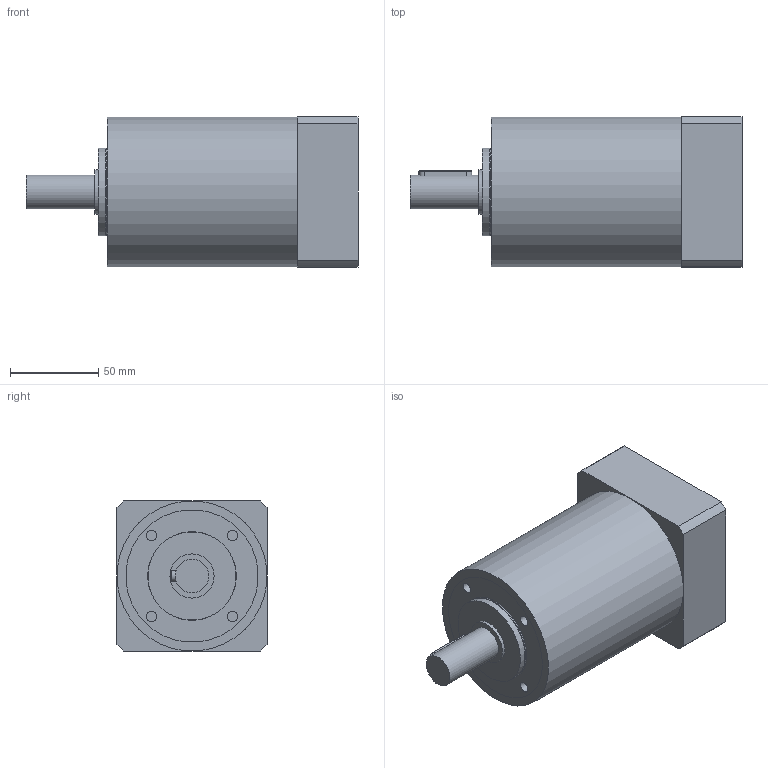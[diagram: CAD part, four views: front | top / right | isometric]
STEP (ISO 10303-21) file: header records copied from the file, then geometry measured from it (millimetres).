
FILE_DESCRIPTION(/* description */ (''),/* implementation_level */ '2;1');
FILE_NAME(/* name */ 'E0001796170203130935346120913462653109MP030217141315_step214.stp',/* time_stamp */ '2017-02-03T14:13:58+01:00',/* author */ (''),/* organization */ (''),/* preprocessor_version */ 'ST-DEVELOPER v15',/* originating_system */ 'SIEMENS PLM Software NX 9.0',/* authorisation */ '');
FILE_SCHEMA (('AUTOMOTIVE_DESIGN { 1 0 10303 214 0 1 1 1 }'));
Length unit declared in the file: millimetre
Products named in the file (1): E0001796170203130935346120913462653109MP030217141315_M
Bounding box: 188 x 85 x 85 mm (x, y, z)
Volume: 824949.7 mm3; surface area: 109142.5 mm2
Topology: 9 solids, 9 shells, 115 faces, 221 edges, 142 vertices
Faces by surface type: plane 55, cylinder 41, cone 16, torus 3
Full cylindrical faces by diameter (mm): 5 x5, 6 x8, 8.72 x1, 9 x1, 9.52 x1, 13 x1, 13.75 x1, 19 x1, 25 x4, 47 x1, 50 x1, 52 x1, 68 x2, 73 x1, 75 x2, 85 x1
Entity records: 2784 total; most frequent: CARTESIAN_POINT 529, DIRECTION 482, ORIENTED_EDGE 332, AXIS2_PLACEMENT_3D 214, EDGE_LOOP 190, EDGE_CURVE 166, FACE_BOUND 136, VERTEX_POINT 129
